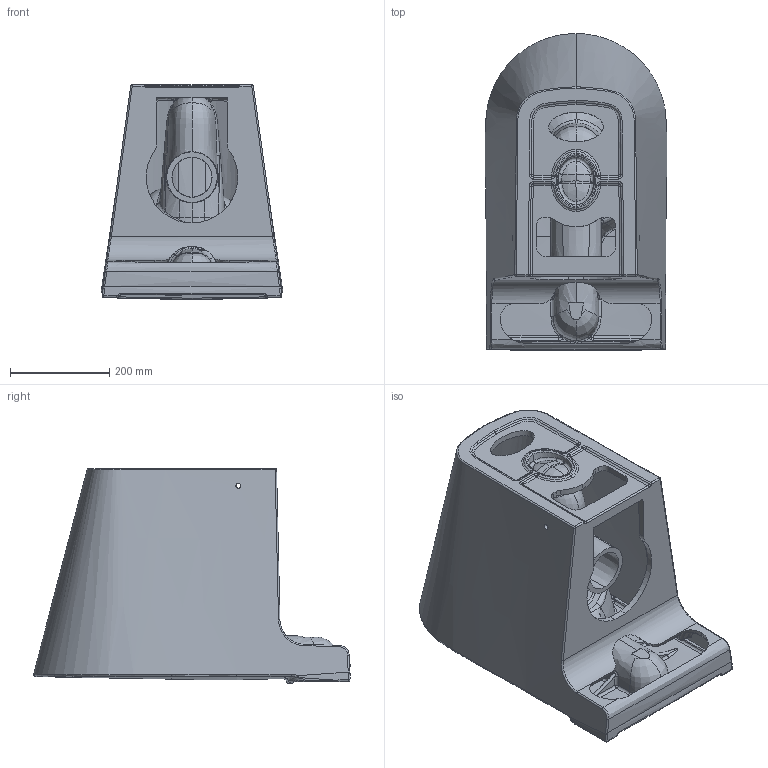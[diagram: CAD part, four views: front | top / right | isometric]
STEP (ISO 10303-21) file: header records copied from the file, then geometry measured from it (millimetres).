
FILE_DESCRIPTION((''),'2;1');
FILE_NAME('392ZUOTOU','2024-11-11T',('Administrator'),('Globeunion.com'),'PRO/ENGINEER BY PARAMETRIC TECHNOLOGY CORPORATION, 2010280','PRO/ENGINEER BY PARAMETRIC TECHNOLOGY CORPORATION, 2010280','');
FILE_SCHEMA(('CONFIG_CONTROL_DESIGN'));
Length unit declared in the file: millimetre
Products named in the file (1): 392ZUOTOU
Bounding box: 366.89 x 640.09 x 433.97 mm (x, y, z)
Volume: 15848416.2 mm3; surface area: 2160228.2 mm2
Topology: 1 solids, 1 shells, 763 faces, 1870 edges, 1083 vertices
Faces by surface type: bspline 509, cylinder 134, plane 62, sphere 24, cone 13, torus 12, extrusion 9
Entity records: 71120 total; most frequent: CARTESIAN_POINT 57969, ORIENTED_EDGE 3676, EDGE_CURVE 1838, B_SPLINE_CURVE_WITH_KNOTS 1368, DIRECTION 1196, VERTEX_POINT 1083, EDGE_LOOP 781, FACE_OUTER_BOUND 763
